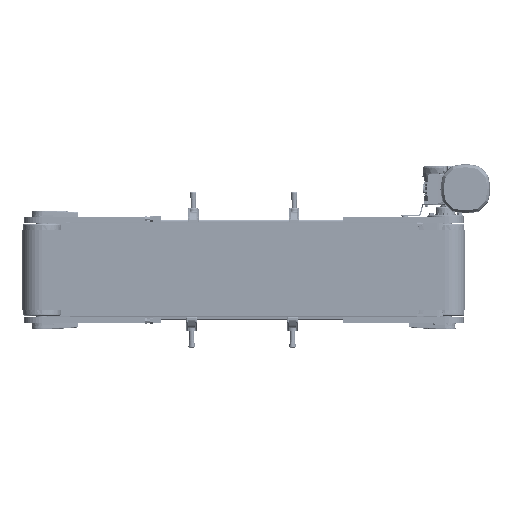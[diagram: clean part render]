
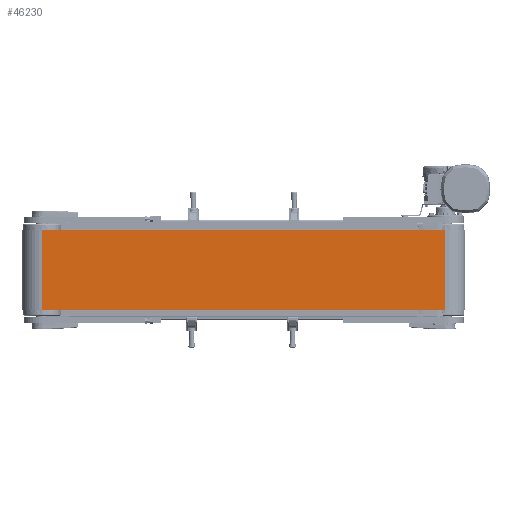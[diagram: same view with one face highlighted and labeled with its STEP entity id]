
A CAD part, front view. The second image highlights one B-rep face of the part: STEP entity #46230.
In plain terms, the highlighted planar face has unit normal (0, -1, 0).
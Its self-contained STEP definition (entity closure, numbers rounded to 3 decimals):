
#1490 = PLANE ( 'NONE',  #177147 ) ;
#2565 = ORIENTED_EDGE ( 'NONE', *, *, #82045, .T. ) ;
#16642 = FACE_OUTER_BOUND ( 'NONE', #78945, .T. ) ;
#16720 = ORIENTED_EDGE ( 'NONE', *, *, #160490, .F. ) ;
#26956 = VERTEX_POINT ( 'NONE', #58450 ) ;
#31763 = DIRECTION ( 'NONE',  ( 1., 0., 0. ) ) ;
#46230 = ADVANCED_FACE ( 'NONE', ( #16642 ), #1490, .F. ) ;
#58450 = CARTESIAN_POINT ( 'NONE',  ( -500., -49.5, -100. ) ) ;
#63040 = VERTEX_POINT ( 'NONE', #186674 ) ;
#71379 = EDGE_CURVE ( 'NONE', #174844, #26956, #138069, .T. ) ;
#74020 = EDGE_CURVE ( 'NONE', #138713, #63040, #144755, .T. ) ;
#78945 = EDGE_LOOP ( 'NONE', ( #2565, #173250, #16720, #108587 ) ) ;
#82045 = EDGE_CURVE ( 'NONE', #26956, #63040, #92117, .T. ) ;
#90479 = DIRECTION ( 'NONE',  ( 0., 0., 1. ) ) ;
#92117 = LINE ( 'NONE', #199449, #155776 ) ;
#107677 = CARTESIAN_POINT ( 'NONE',  ( -500., -49.5, 100. ) ) ;
#108587 = ORIENTED_EDGE ( 'NONE', *, *, #71379, .T. ) ;
#124836 = CARTESIAN_POINT ( 'NONE',  ( -500., -49.5, 100. ) ) ;
#132919 = VECTOR ( 'NONE', #193348, 1000. ) ;
#138069 = LINE ( 'NONE', #168512, #197263 ) ;
#138713 = VERTEX_POINT ( 'NONE', #194494 ) ;
#144755 = LINE ( 'NONE', #176220, #132919 ) ;
#152083 = VECTOR ( 'NONE', #31763, 1000. ) ;
#154298 = DIRECTION ( 'NONE',  ( 0., 0., -1. ) ) ;
#155776 = VECTOR ( 'NONE', #167077, 1000. ) ;
#158237 = LINE ( 'NONE', #124836, #152083 ) ;
#160490 = EDGE_CURVE ( 'NONE', #174844, #138713, #158237, .T. ) ;
#163020 = CARTESIAN_POINT ( 'NONE',  ( -500., -49.5, 100. ) ) ;
#167077 = DIRECTION ( 'NONE',  ( 1., 0., 0. ) ) ;
#167452 = DIRECTION ( 'NONE',  ( 0., 1., 0. ) ) ;
#168512 = CARTESIAN_POINT ( 'NONE',  ( -500., -49.5, 100. ) ) ;
#173250 = ORIENTED_EDGE ( 'NONE', *, *, #74020, .F. ) ;
#174844 = VERTEX_POINT ( 'NONE', #163020 ) ;
#176220 = CARTESIAN_POINT ( 'NONE',  ( 500., -49.5, 100. ) ) ;
#177147 = AXIS2_PLACEMENT_3D ( 'NONE', #107677, #167452, #90479 ) ;
#186674 = CARTESIAN_POINT ( 'NONE',  ( 500., -49.5, -100. ) ) ;
#193348 = DIRECTION ( 'NONE',  ( 0., 0., -1. ) ) ;
#194494 = CARTESIAN_POINT ( 'NONE',  ( 500., -49.5, 100. ) ) ;
#197263 = VECTOR ( 'NONE', #154298, 1000. ) ;
#199449 = CARTESIAN_POINT ( 'NONE',  ( -500., -49.5, -100. ) ) ;
